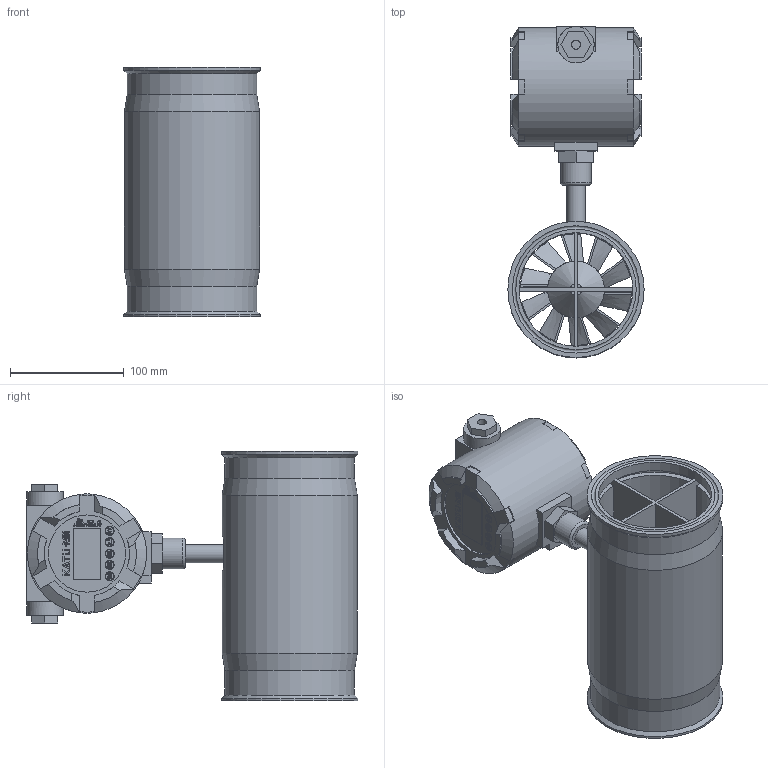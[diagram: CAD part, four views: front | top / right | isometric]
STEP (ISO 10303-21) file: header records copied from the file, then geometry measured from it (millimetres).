
FILE_DESCRIPTION( (''), '2;1');
FILE_NAME( 'QTKC_DN100_tri-clamp_Ex.step', '2024-10-14T13:49:38+08:00', (''), (''), '', '', '');
FILE_SCHEMA (('AUTOMOTIVE_DESIGN { 1 0 10303 214 3 1 1 1 }'));
Length unit declared in the file: millimetre
Products named in the file (1): QTKC DN100_tri-clamp_Ex
Bounding box: 120 x 292 x 220 mm (x, y, z)
Volume: 1839375.3 mm3; surface area: 328760.7 mm2
Topology: 7 solids, 7 shells, 1441 faces, 3957 edges, 2634 vertices
Faces by surface type: plane 760, extrusion 504, cylinder 111, cone 36, bspline 22, torus 8
Full cylindrical faces by diameter (mm): 3.3 x1, 6 x2, 8 x2, 16 x1, 16.5 x1, 18.5 x1, 20 x2, 27 x1, 32 x2, 45 x1, 50 x2, 68 x1, 100 x3, 105 x1, 110 x2, 114 x2, 119 x1, 120 x2
Entity records: 48428 total; most frequent: CARTESIAN_POINT 14235, ORIENTED_EDGE 7760, DIRECTION 5299, EDGE_CURVE 3880, VECTOR 2879, VERTEX_POINT 2605, LINE 2375, B_SPLINE_CURVE_WITH_KNOTS 1715
